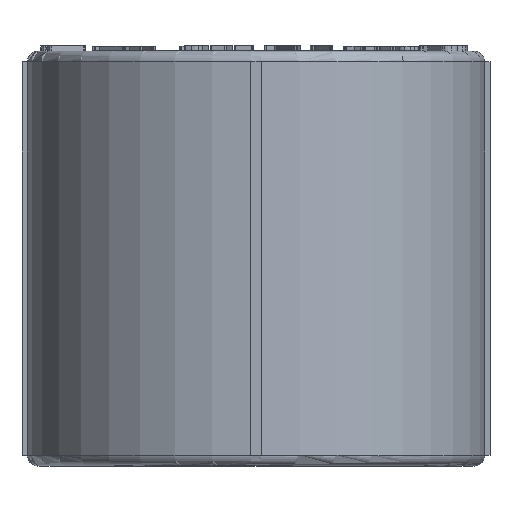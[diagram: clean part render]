
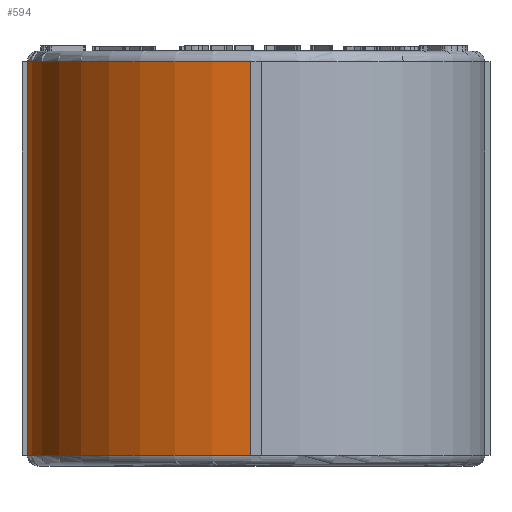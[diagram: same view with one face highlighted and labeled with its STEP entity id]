
A CAD part, top view. The second image highlights one B-rep face of the part: STEP entity #594.
In plain terms, the highlighted cylindrical face has radius 21.5 mm (diameter 43 mm), a partial arc.
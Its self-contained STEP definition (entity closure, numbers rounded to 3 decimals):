
#594=ADVANCED_FACE('',(#4146),#4148,.T.);
#4146=FACE_BOUND('',#4147,.T.);
#4147=EDGE_LOOP('',(#8434,#8435,#8436,#8437));
#4148=CYLINDRICAL_SURFACE('',#4149,21.5);
#4149=AXIS2_PLACEMENT_3D('',#4150,#4151,#4152);
#4150=CARTESIAN_POINT('',(0.,-19.5,0.));
#4151=DIRECTION('',(0.,1.,0.));
#4152=DIRECTION('',(-1.,0.,0.));
#8434=ORIENTED_EDGE('',*,*,#10089,.F.);
#8435=ORIENTED_EDGE('',*,*,#10090,.T.);
#8436=ORIENTED_EDGE('',*,*,#10091,.F.);
#8437=ORIENTED_EDGE('',*,*,#10081,.F.);
#10081=EDGE_CURVE('',#12694,#12696,#12697,.T.);
#10089=EDGE_CURVE('',#12709,#12694,#12710,.T.);
#10090=EDGE_CURVE('',#12709,#12711,#12712,.T.);
#10091=EDGE_CURVE('',#12696,#12711,#12713,.F.);
#12694=VERTEX_POINT('',#18409);
#12696=VERTEX_POINT('',#18414);
#12697=CIRCLE('',#18415,21.5);
#12709=VERTEX_POINT('',#18447);
#12710=LINE('',#18448,#18449);
#12711=VERTEX_POINT('',#18451);
#12712=CIRCLE('',#18452,21.5);
#12713=LINE('',#18456,#18457);
#18409=CARTESIAN_POINT('',(-21.494,18.5,0.5));
#18414=CARTESIAN_POINT('',(-0.5,18.5,21.494));
#18415=AXIS2_PLACEMENT_3D('',#18416,#18417,#18418);
#18416=CARTESIAN_POINT('',(0.,18.5,0.));
#18417=DIRECTION('',(0.,1.,0.));
#18418=DIRECTION('',(-1.,0.,0.023));
#18447=CARTESIAN_POINT('',(-21.494,-18.5,0.5));
#18448=CARTESIAN_POINT('',(-21.494,-18.5,0.5));
#18449=VECTOR('',#18450,1.);
#18450=DIRECTION('',(0.,1.,0.));
#18451=CARTESIAN_POINT('',(-0.5,-18.5,21.494));
#18452=AXIS2_PLACEMENT_3D('',#18453,#18454,#18455);
#18453=CARTESIAN_POINT('',(0.,-18.5,0.));
#18454=DIRECTION('',(0.,1.,0.));
#18455=DIRECTION('',(-1.,0.,0.023));
#18456=CARTESIAN_POINT('',(-0.5,-18.5,21.494));
#18457=VECTOR('',#18458,1.);
#18458=DIRECTION('',(0.,1.,0.));
